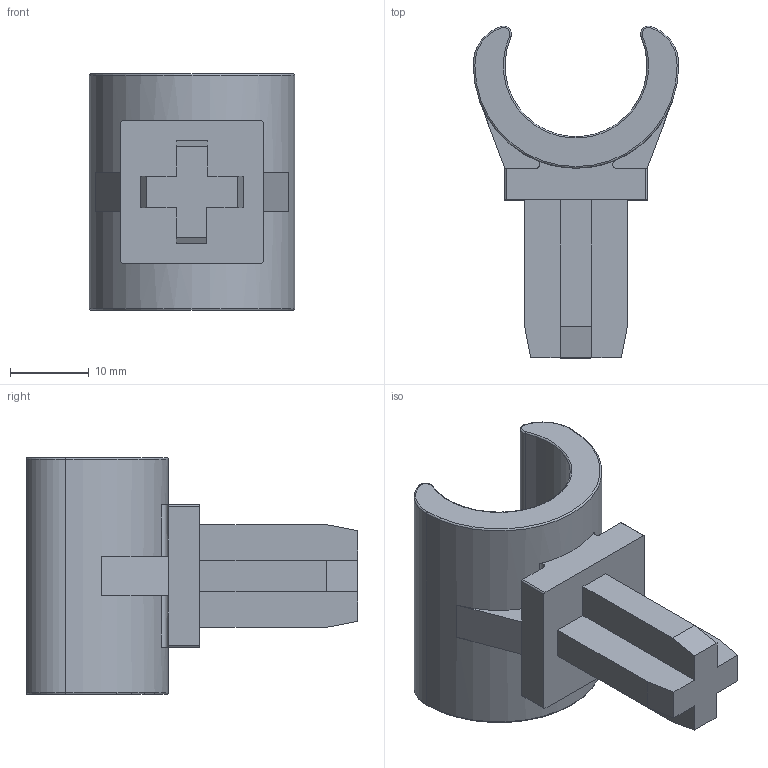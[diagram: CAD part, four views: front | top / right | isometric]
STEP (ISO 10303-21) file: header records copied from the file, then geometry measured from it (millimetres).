
FILE_DESCRIPTION((''),'2;1');
FILE_NAME('C:\Vault Klient\Projekt\Step\300-1020.stp','2009-12-04T09:33:05',('Mathias'),(''),'Autodesk Inventor 2010','Autodesk Inventor 2010','');
FILE_SCHEMA(('CONFIG_CONTROL_DESIGN'));
Length unit declared in the file: millimetre
Products named in the file (1): 300-1020
Bounding box: 26 x 42 x 30 mm (x, y, z)
Volume: 8374.7 mm3; surface area: 4955.2 mm2
Topology: 1 solids, 1 shells, 61 faces, 164 edges, 104 vertices
Faces by surface type: plane 33, cylinder 16, torus 12
Entity records: 1986 total; most frequent: CARTESIAN_POINT 378, DIRECTION 346, ORIENTED_EDGE 328, EDGE_CURVE 164, AXIS2_PLACEMENT_3D 124, VERTEX_POINT 104, VECTOR 98, LINE 98
